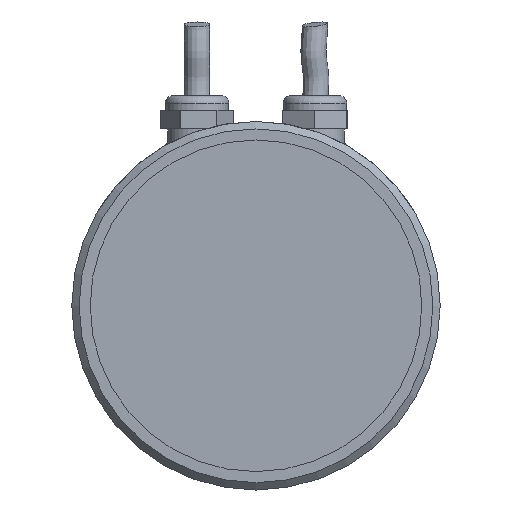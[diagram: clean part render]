
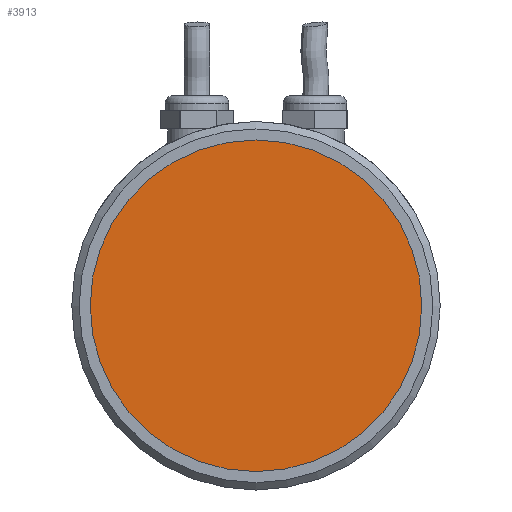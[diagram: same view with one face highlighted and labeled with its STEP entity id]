
A CAD part, left-side view. The second image highlights one B-rep face of the part: STEP entity #3913.
In plain terms, the highlighted planar face has unit normal (-1, 0, 0).
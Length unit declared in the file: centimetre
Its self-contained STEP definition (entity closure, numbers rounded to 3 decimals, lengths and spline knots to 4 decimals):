
#1343=PLANE('',#4175);
#1592=VERTEX_POINT('',#7537);
#1772=CIRCLE('',#4173,2.25);
#2127=EDGE_CURVE('',#1592,#1592,#1772,.T.);
#2860=ORIENTED_EDGE('',*,*,#2127,.T.);
#3432=EDGE_LOOP('',(#2860));
#3678=FACE_BOUND('',#3432,.T.);
#3913=ADVANCED_FACE('',(#3678),#1343,.T.);
#4173=AXIS2_PLACEMENT_3D('',#7536,#4734,#4735);
#4175=AXIS2_PLACEMENT_3D('',#7540,#4738,$);
#4734=DIRECTION('',(-1.,0.,0.));
#4735=DIRECTION('',(0.,0.,2.25));
#4738=DIRECTION('',(-1.,0.,0.));
#7536=CARTESIAN_POINT('',(0.1,0.,0.));
#7537=CARTESIAN_POINT('',(0.1,0.,2.25));
#7540=CARTESIAN_POINT('',(0.1,0.,0.));
